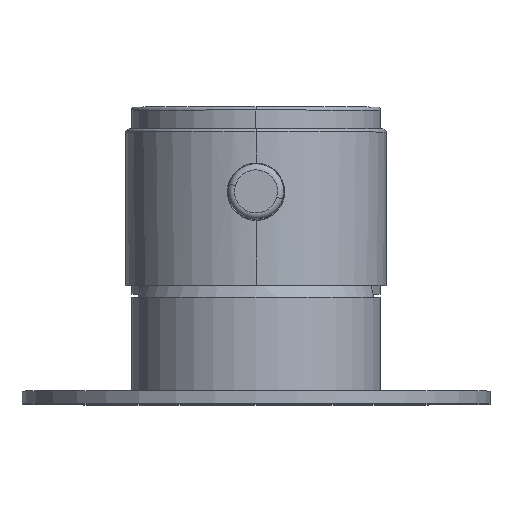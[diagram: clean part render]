
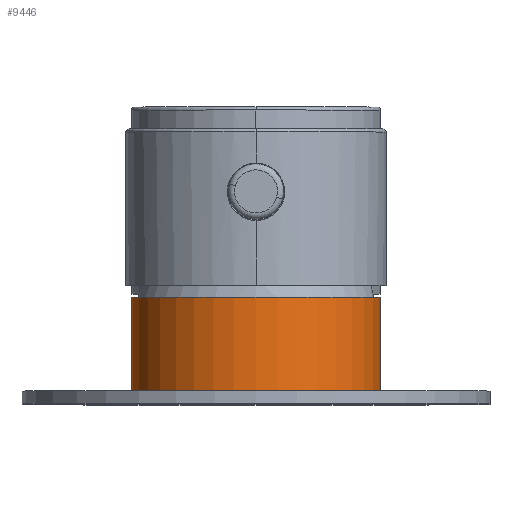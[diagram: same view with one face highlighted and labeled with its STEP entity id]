
A CAD part, top view. The second image highlights one B-rep face of the part: STEP entity #9446.
In plain terms, the highlighted cylindrical face has radius 20 mm (diameter 40 mm), a partial arc.
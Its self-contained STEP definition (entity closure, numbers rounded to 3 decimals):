
#2697=CARTESIAN_POINT('',(0.,80.,-67.5));
#2698=DIRECTION('',(0.,1.,0.));
#2699=DIRECTION('',(-1.,0.,0.));
#2700=AXIS2_PLACEMENT_3D('',#2697,#2698,#2699);
#2702=DIRECTION('',(0.,1.,0.));
#2703=VECTOR('',#2702,17.);
#2704=CARTESIAN_POINT('',(-20.,80.,-67.5));
#2705=LINE('',#2704,#2703);
#2706=DIRECTION('',(0.,1.,0.));
#2707=VECTOR('',#2706,17.);
#2708=CARTESIAN_POINT('',(20.,80.,-67.5));
#2709=LINE('',#2708,#2707);
#2710=CARTESIAN_POINT('',(0.,97.,-67.5));
#2711=DIRECTION('',(0.,-1.,0.));
#2712=DIRECTION('',(1.,0.,0.));
#2713=AXIS2_PLACEMENT_3D('',#2710,#2711,#2712);
#6754=CARTESIAN_POINT('',(20.,97.,-67.5));
#6755=CARTESIAN_POINT('',(-20.,97.,-67.5));
#6756=VERTEX_POINT('',#6754);
#6757=VERTEX_POINT('',#6755);
#6788=CARTESIAN_POINT('',(20.,80.,-67.5));
#6789=CARTESIAN_POINT('',(-20.,80.,-67.5));
#6790=VERTEX_POINT('',#6788);
#6791=VERTEX_POINT('',#6789);
#9434=CARTESIAN_POINT('',(0.,53.425,-67.5));
#9435=DIRECTION('',(0.,1.,0.));
#9436=DIRECTION('',(1.,0.,0.));
#9437=AXIS2_PLACEMENT_3D('',#9434,#9435,#9436);
#9438=CYLINDRICAL_SURFACE('',#9437,20.);
#9439=ORIENTED_EDGE('',*,*,#9409,.F.);
#9440=ORIENTED_EDGE('',*,*,#9429,.T.);
#9442=ORIENTED_EDGE('',*,*,#9441,.F.);
#9443=ORIENTED_EDGE('',*,*,#9425,.F.);
#9444=EDGE_LOOP('',(#9439,#9440,#9442,#9443));
#9445=FACE_OUTER_BOUND('',#9444,.F.);
#9446=ADVANCED_FACE('',(#9445),#9438,.T.);
#2701=CIRCLE('',#2700,20.);
#2714=CIRCLE('',#2713,20.);
#9409=EDGE_CURVE('',#6791,#6790,#2701,.T.);
#9425=EDGE_CURVE('',#6790,#6756,#2709,.T.);
#9429=EDGE_CURVE('',#6791,#6757,#2705,.T.);
#9441=EDGE_CURVE('',#6756,#6757,#2714,.T.);
